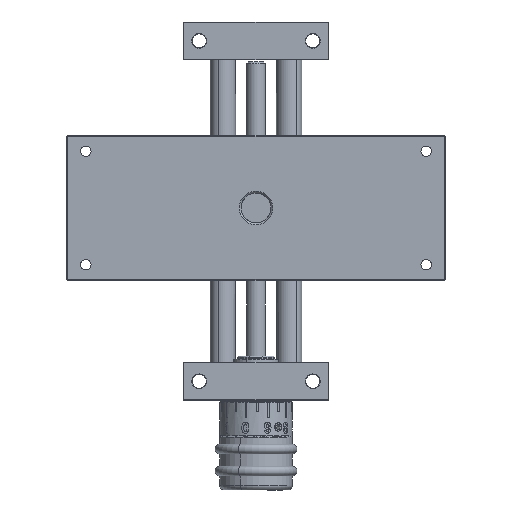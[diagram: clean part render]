
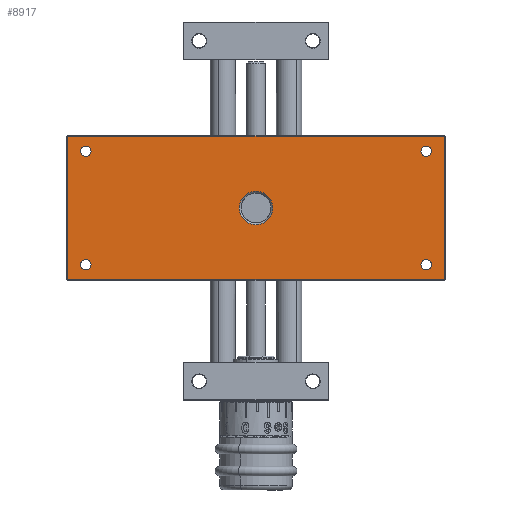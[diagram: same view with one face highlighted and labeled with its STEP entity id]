
A CAD part, front view. The second image highlights one B-rep face of the part: STEP entity #8917.
In plain terms, the highlighted planar face has unit normal (0, -1, 0).
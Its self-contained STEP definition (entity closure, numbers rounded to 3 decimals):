
#35 = DIRECTION ( 'NONE',  ( 0., 0., 1. ) ) ;
#96 = CIRCLE ( 'NONE', #24742, 1.65 ) ;
#97 = EDGE_LOOP ( 'NONE', ( #6774, #10186 ) ) ;
#143 = EDGE_CURVE ( 'NONE', #18676, #30330, #19676, .T. ) ;
#175 = ORIENTED_EDGE ( 'NONE', *, *, #1936, .F. ) ;
#469 = DIRECTION ( 'NONE',  ( 0., -1., 0. ) ) ;
#541 = DIRECTION ( 'NONE',  ( 0., 0., 1. ) ) ;
#982 = EDGE_LOOP ( 'NONE', ( #14127, #32856 ) ) ;
#1190 = CARTESIAN_POINT ( 'NONE',  ( -60., -7., 23. ) ) ;
#1936 = EDGE_CURVE ( 'NONE', #10449, #7360, #25067, .T. ) ;
#2150 = CARTESIAN_POINT ( 'NONE',  ( -54., -7., -16.35 ) ) ;
#2218 = EDGE_LOOP ( 'NONE', ( #30456, #17634, #27228, #21362 ) ) ;
#2391 = CARTESIAN_POINT ( 'NONE',  ( -59.7, -7., 22.7 ) ) ;
#2467 = EDGE_CURVE ( 'NONE', #7360, #10449, #11264, .T. ) ;
#2624 = DIRECTION ( 'NONE',  ( 0., 0., 1. ) ) ;
#2630 = DIRECTION ( 'NONE',  ( 0., -1., 0. ) ) ;
#2849 = CARTESIAN_POINT ( 'NONE',  ( 59.7, -7., 22.7 ) ) ;
#3566 = CARTESIAN_POINT ( 'NONE',  ( 54., -7., 18. ) ) ;
#3610 = AXIS2_PLACEMENT_3D ( 'NONE', #21893, #5843, #24533 ) ;
#3880 = ORIENTED_EDGE ( 'NONE', *, *, #15721, .F. ) ;
#4482 = LINE ( 'NONE', #29967, #30680 ) ;
#4611 = EDGE_CURVE ( 'NONE', #14270, #33739, #15437, .T. ) ;
#4872 = VERTEX_POINT ( 'NONE', #18324 ) ;
#5543 = CARTESIAN_POINT ( 'NONE',  ( -60., -7., 22.7 ) ) ;
#5843 = DIRECTION ( 'NONE',  ( 0., 1., 0. ) ) ;
#6088 = VERTEX_POINT ( 'NONE', #2391 ) ;
#6108 = FACE_BOUND ( 'NONE', #10994, .T. ) ;
#6774 = ORIENTED_EDGE ( 'NONE', *, *, #26298, .T. ) ;
#6921 = FACE_OUTER_BOUND ( 'NONE', #2218, .T. ) ;
#7098 = CIRCLE ( 'NONE', #21440, 1.65 ) ;
#7360 = VERTEX_POINT ( 'NONE', #11107 ) ;
#7495 = ORIENTED_EDGE ( 'NONE', *, *, #143, .F. ) ;
#8030 = CARTESIAN_POINT ( 'NONE',  ( -59.7, -7., -23. ) ) ;
#8113 = CARTESIAN_POINT ( 'NONE',  ( 59.7, -7., -22.7 ) ) ;
#8306 = DIRECTION ( 'NONE',  ( 1., 0., 0. ) ) ;
#8904 = CIRCLE ( 'NONE', #27369, 1.65 ) ;
#8917 = ADVANCED_FACE ( 'NONE', ( #13272, #6921, #34789, #6108, #33940, #26692 ), #22652, .T. ) ;
#9194 = AXIS2_PLACEMENT_3D ( 'NONE', #3566, #469, #541 ) ;
#9245 = DIRECTION ( 'NONE',  ( 0., 0., 1. ) ) ;
#9264 = CARTESIAN_POINT ( 'NONE',  ( 54., -7., 19.65 ) ) ;
#9697 = AXIS2_PLACEMENT_3D ( 'NONE', #1190, #25289, #9245 ) ;
#9709 = EDGE_LOOP ( 'NONE', ( #7495, #3880 ) ) ;
#10186 = ORIENTED_EDGE ( 'NONE', *, *, #28522, .T. ) ;
#10449 = VERTEX_POINT ( 'NONE', #31052 ) ;
#10492 = AXIS2_PLACEMENT_3D ( 'NONE', #26199, #26166, #26118 ) ;
#10751 = EDGE_CURVE ( 'NONE', #33254, #34331, #31386, .T. ) ;
#10994 = EDGE_LOOP ( 'NONE', ( #175, #24084 ) ) ;
#11107 = CARTESIAN_POINT ( 'NONE',  ( -54., -7., 16.35 ) ) ;
#11264 = CIRCLE ( 'NONE', #32527, 1.65 ) ;
#11530 = CARTESIAN_POINT ( 'NONE',  ( 0., -7., 0. ) ) ;
#11908 = EDGE_CURVE ( 'NONE', #33739, #14270, #8904, .T. ) ;
#12264 = CARTESIAN_POINT ( 'NONE',  ( 54., -7., 18. ) ) ;
#13086 = VECTOR ( 'NONE', #27024, 1000. ) ;
#13272 = FACE_BOUND ( 'NONE', #97, .T. ) ;
#14127 = ORIENTED_EDGE ( 'NONE', *, *, #4611, .F. ) ;
#14270 = VERTEX_POINT ( 'NONE', #9264 ) ;
#14277 = DIRECTION ( 'NONE',  ( 0., 0., 1. ) ) ;
#14795 = CARTESIAN_POINT ( 'NONE',  ( -54., -7., -19.65 ) ) ;
#14976 = DIRECTION ( 'NONE',  ( 0., 0., 1. ) ) ;
#15069 = AXIS2_PLACEMENT_3D ( 'NONE', #24819, #24777, #24707 ) ;
#15437 = CIRCLE ( 'NONE', #9194, 1.65 ) ;
#15445 = VERTEX_POINT ( 'NONE', #24624 ) ;
#15721 = EDGE_CURVE ( 'NONE', #30330, #18676, #7098, .T. ) ;
#16104 = DIRECTION ( 'NONE',  ( 0., -1., 0. ) ) ;
#17070 = AXIS2_PLACEMENT_3D ( 'NONE', #11530, #30486, #14277 ) ;
#17162 = EDGE_CURVE ( 'NONE', #34331, #33254, #96, .T. ) ;
#17207 = VERTEX_POINT ( 'NONE', #8113 ) ;
#17549 = VERTEX_POINT ( 'NONE', #2849 ) ;
#17634 = ORIENTED_EDGE ( 'NONE', *, *, #18789, .T. ) ;
#18130 = CARTESIAN_POINT ( 'NONE',  ( 54., -7., -16.35 ) ) ;
#18295 = VECTOR ( 'NONE', #27073, 1000. ) ;
#18324 = CARTESIAN_POINT ( 'NONE',  ( -59.7, -7., -22.7 ) ) ;
#18609 = LINE ( 'NONE', #30819, #34710 ) ;
#18676 = VERTEX_POINT ( 'NONE', #2150 ) ;
#18677 = DIRECTION ( 'NONE',  ( 0., -1., 0. ) ) ;
#18683 = CARTESIAN_POINT ( 'NONE',  ( 54., -7., -18. ) ) ;
#18789 = EDGE_CURVE ( 'NONE', #17549, #6088, #28270, .T. ) ;
#19160 = CIRCLE ( 'NONE', #3610, 5.3 ) ;
#19676 = CIRCLE ( 'NONE', #10492, 1.65 ) ;
#20701 = CARTESIAN_POINT ( 'NONE',  ( 0., -7., -5.3 ) ) ;
#21362 = ORIENTED_EDGE ( 'NONE', *, *, #25960, .T. ) ;
#21393 = DIRECTION ( 'NONE',  ( 0., 0., 1. ) ) ;
#21440 = AXIS2_PLACEMENT_3D ( 'NONE', #34891, #18677, #2624 ) ;
#21893 = CARTESIAN_POINT ( 'NONE',  ( 0., -7., 0. ) ) ;
#22652 = PLANE ( 'NONE',  #9697 ) ;
#24084 = ORIENTED_EDGE ( 'NONE', *, *, #2467, .F. ) ;
#24533 = DIRECTION ( 'NONE',  ( 0., 0., 1. ) ) ;
#24624 = CARTESIAN_POINT ( 'NONE',  ( 0., -7., 5.3 ) ) ;
#24707 = DIRECTION ( 'NONE',  ( 0., 0., 1. ) ) ;
#24727 = EDGE_CURVE ( 'NONE', #6088, #4872, #32745, .T. ) ;
#24742 = AXIS2_PLACEMENT_3D ( 'NONE', #18683, #2630, #21393 ) ;
#24777 = DIRECTION ( 'NONE',  ( 0., -1., 0. ) ) ;
#24819 = CARTESIAN_POINT ( 'NONE',  ( -54., -7., 18. ) ) ;
#24978 = AXIS2_PLACEMENT_3D ( 'NONE', #32341, #16104, #35 ) ;
#25067 = CIRCLE ( 'NONE', #15069, 1.65 ) ;
#25289 = DIRECTION ( 'NONE',  ( 0., -1., 0. ) ) ;
#25889 = DIRECTION ( 'NONE',  ( 0., 0., 1. ) ) ;
#25960 = EDGE_CURVE ( 'NONE', #4872, #17207, #4482, .T. ) ;
#26118 = DIRECTION ( 'NONE',  ( 0., 0., 1. ) ) ;
#26144 = DIRECTION ( 'NONE',  ( 0., -1., 0. ) ) ;
#26166 = DIRECTION ( 'NONE',  ( 0., -1., 0. ) ) ;
#26199 = CARTESIAN_POINT ( 'NONE',  ( -54., -7., -18. ) ) ;
#26244 = CARTESIAN_POINT ( 'NONE',  ( -54., -7., 18. ) ) ;
#26298 = EDGE_CURVE ( 'NONE', #15445, #33572, #19160, .T. ) ;
#26692 = FACE_BOUND ( 'NONE', #982, .T. ) ;
#27024 = DIRECTION ( 'NONE',  ( -1., 0., 0. ) ) ;
#27073 = DIRECTION ( 'NONE',  ( 0., 0., -1. ) ) ;
#27228 = ORIENTED_EDGE ( 'NONE', *, *, #24727, .T. ) ;
#27369 = AXIS2_PLACEMENT_3D ( 'NONE', #12264, #31205, #14976 ) ;
#27432 = CARTESIAN_POINT ( 'NONE',  ( 54., -7., 16.35 ) ) ;
#28270 = LINE ( 'NONE', #5543, #13086 ) ;
#28282 = ORIENTED_EDGE ( 'NONE', *, *, #10751, .F. ) ;
#28522 = EDGE_CURVE ( 'NONE', #33572, #15445, #31841, .T. ) ;
#29912 = EDGE_CURVE ( 'NONE', #17207, #17549, #18609, .T. ) ;
#29967 = CARTESIAN_POINT ( 'NONE',  ( 60., -7., -22.7 ) ) ;
#30330 = VERTEX_POINT ( 'NONE', #14795 ) ;
#30456 = ORIENTED_EDGE ( 'NONE', *, *, #29912, .T. ) ;
#30486 = DIRECTION ( 'NONE',  ( 0., 1., 0. ) ) ;
#30680 = VECTOR ( 'NONE', #8306, 1000. ) ;
#30819 = CARTESIAN_POINT ( 'NONE',  ( 59.7, -7., 23. ) ) ;
#31052 = CARTESIAN_POINT ( 'NONE',  ( -54., -7., 19.65 ) ) ;
#31205 = DIRECTION ( 'NONE',  ( 0., -1., 0. ) ) ;
#31386 = CIRCLE ( 'NONE', #24978, 1.65 ) ;
#31755 = CARTESIAN_POINT ( 'NONE',  ( 54., -7., -19.65 ) ) ;
#31765 = EDGE_LOOP ( 'NONE', ( #34607, #28282 ) ) ;
#31841 = CIRCLE ( 'NONE', #17070, 5.3 ) ;
#32341 = CARTESIAN_POINT ( 'NONE',  ( 54., -7., -18. ) ) ;
#32527 = AXIS2_PLACEMENT_3D ( 'NONE', #26244, #26144, #25889 ) ;
#32745 = LINE ( 'NONE', #8030, #18295 ) ;
#32856 = ORIENTED_EDGE ( 'NONE', *, *, #11908, .F. ) ;
#33254 = VERTEX_POINT ( 'NONE', #31755 ) ;
#33473 = DIRECTION ( 'NONE',  ( 0., 0., 1. ) ) ;
#33572 = VERTEX_POINT ( 'NONE', #20701 ) ;
#33739 = VERTEX_POINT ( 'NONE', #27432 ) ;
#33940 = FACE_BOUND ( 'NONE', #31765, .T. ) ;
#34331 = VERTEX_POINT ( 'NONE', #18130 ) ;
#34607 = ORIENTED_EDGE ( 'NONE', *, *, #17162, .F. ) ;
#34710 = VECTOR ( 'NONE', #33473, 1000. ) ;
#34789 = FACE_BOUND ( 'NONE', #9709, .T. ) ;
#34891 = CARTESIAN_POINT ( 'NONE',  ( -54., -7., -18. ) ) ;
